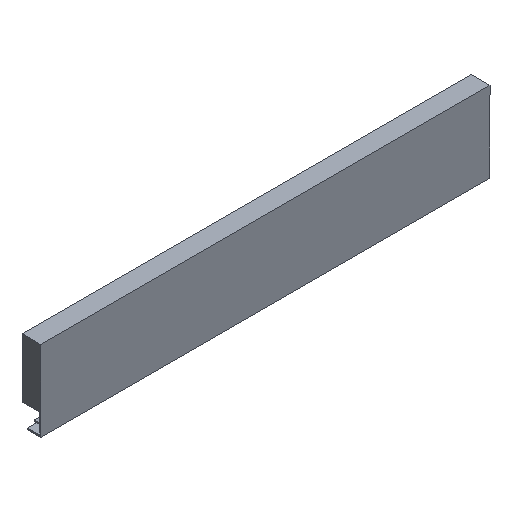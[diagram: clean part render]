
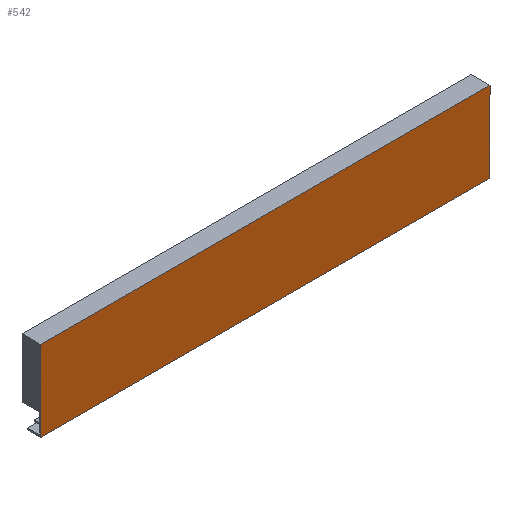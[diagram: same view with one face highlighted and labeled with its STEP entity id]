
A CAD part, isometric view. The second image highlights one B-rep face of the part: STEP entity #542.
In plain terms, the highlighted planar face has unit normal (0, -1, 0).
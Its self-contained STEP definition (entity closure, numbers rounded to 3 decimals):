
#14 = VERTEX_POINT ( 'NONE', #34 ) ;
#19 = VERTEX_POINT ( 'NONE', #39 ) ;
#26 = VERTEX_POINT ( 'NONE', #46 ) ;
#27 = VERTEX_POINT ( 'NONE', #47 ) ;
#34 = CARTESIAN_POINT ( 'NONE',  ( -188.5, -5.5, 49.7 ) ) ;
#39 = CARTESIAN_POINT ( 'NONE',  ( 188.5, -5.5, -17.9 ) ) ;
#46 = CARTESIAN_POINT ( 'NONE',  ( 188.5, -5.5, 49.7 ) ) ;
#47 = CARTESIAN_POINT ( 'NONE',  ( -188.5, -5.5, -17.9 ) ) ;
#56 = AXIS2_PLACEMENT_3D ( 'NONE', #443, #449, #450 ) ;
#110 = VECTOR ( 'NONE', #346, 1000. ) ;
#161 = ORIENTED_EDGE ( 'NONE', *, *, #514, .T. ) ;
#162 = ORIENTED_EDGE ( 'NONE', *, *, #517, .F. ) ;
#163 = ORIENTED_EDGE ( 'NONE', *, *, #504, .F. ) ;
#164 = ORIENTED_EDGE ( 'NONE', *, *, #513, .T. ) ;
#200 = EDGE_LOOP ( 'NONE', ( #161, #162, #163, #164 ) ) ;
#235 = LINE ( 'NONE', #339, #110 ) ;
#248 = VECTOR ( 'NONE', #374, 1000. ) ;
#249 = LINE ( 'NONE', #353, #253 ) ;
#251 = LINE ( 'NONE', #365, #252 ) ;
#252 = VECTOR ( 'NONE', #366, 1000. ) ;
#253 = VECTOR ( 'NONE', #368, 1000. ) ;
#258 = LINE ( 'NONE', #364, #248 ) ;
#287 = FACE_OUTER_BOUND ( 'NONE', #200, .T. ) ;
#339 = CARTESIAN_POINT ( 'NONE',  ( -188.5, -5.5, -17.9 ) ) ;
#346 = DIRECTION ( 'NONE',  ( 0., 0., 1. ) ) ;
#353 = CARTESIAN_POINT ( 'NONE',  ( 188.5, -5.5, -17.9 ) ) ;
#364 = CARTESIAN_POINT ( 'NONE',  ( -188.5, -5.5, 49.7 ) ) ;
#365 = CARTESIAN_POINT ( 'NONE',  ( -188.5, -5.5, -17.9 ) ) ;
#366 = DIRECTION ( 'NONE',  ( 1., 0., 0. ) ) ;
#368 = DIRECTION ( 'NONE',  ( 0., 0., 1. ) ) ;
#374 = DIRECTION ( 'NONE',  ( 1., 0., 0. ) ) ;
#440 = PLANE ( 'NONE',  #56 ) ;
#443 = CARTESIAN_POINT ( 'NONE',  ( -188.5, -5.5, -17.9 ) ) ;
#449 = DIRECTION ( 'NONE',  ( 0., 1., 0. ) ) ;
#450 = DIRECTION ( 'NONE',  ( 0., 0., -1. ) ) ;
#504 = EDGE_CURVE ( 'NONE', #27, #14, #235, .T. ) ;
#513 = EDGE_CURVE ( 'NONE', #27, #19, #251, .T. ) ;
#514 = EDGE_CURVE ( 'NONE', #19, #26, #249, .T. ) ;
#517 = EDGE_CURVE ( 'NONE', #14, #26, #258, .T. ) ;
#542 = ADVANCED_FACE ( 'NONE', ( #287 ), #440, .F. ) ;
